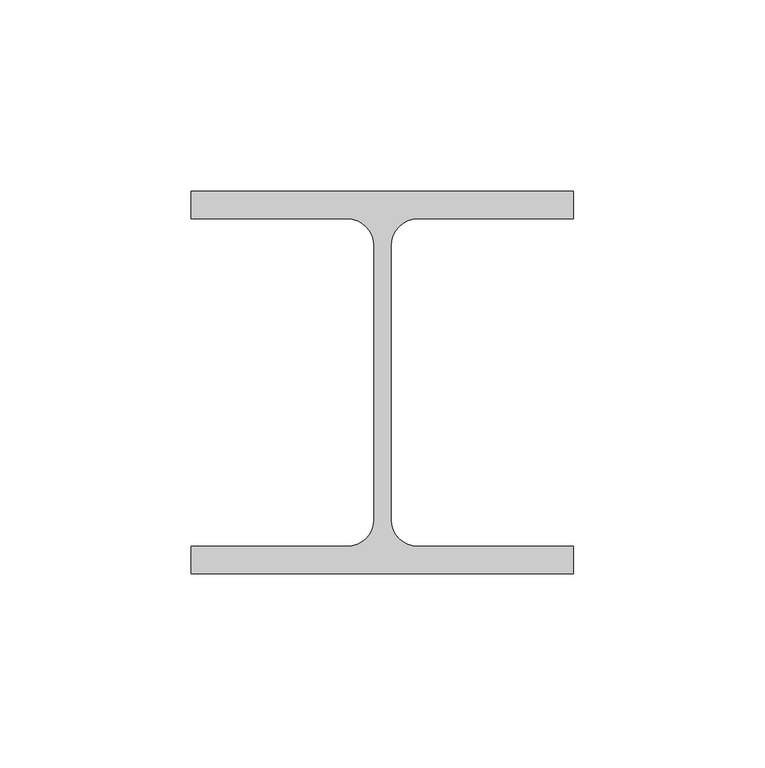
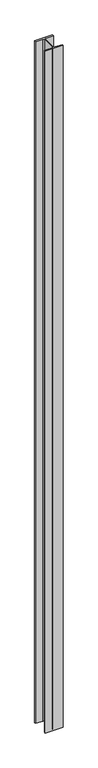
"""IFC4 building model written with IfcOpenShell, lengths in millimetres: column geometry, 08_Колонны_Высокая детализация КМ : 03_Колонны_Начало КМ."""

from ifc_helpers import new_model, si_unit, point, frame, frame_2d, origin, place, context, project, spatial, polyline, circle_curve, trimmed, segment, composite_curve, outline, extrude, source, transform, mapped, element, save


def column_a6e55074(model_context):
    return source(origin(), model_context, "Body", "SweptSolid", [
        extrude(outline(composite_curve([segment(polyline([(-50.0, 42.8), (-50.0, 50.0), (50.0, 50.0), (50.0, 42.8), (9.25, 42.8)]), True, "CONTINUOUS"), segment(trimmed(circle_curve(frame_2d((9.25, 35.8)), 7.0), [point((9.25, 42.8))], [point((2.25, 35.8))], True, "CARTESIAN"), True, "CONTINUOUS"), segment(polyline([(2.25, 35.8), (2.25, -35.8)]), True, "CONTINUOUS"), segment(trimmed(circle_curve(frame_2d((9.25, -35.8)), 7.0), [point((2.25, -35.8))], [point((9.25, -42.8))], True, "CARTESIAN"), True, "CONTINUOUS"), segment(polyline([(9.25, -42.8), (50.0, -42.8), (50.0, -50.0), (-50.0, -50.0), (-50.0, -42.8), (-9.25, -42.8)]), True, "CONTINUOUS"), segment(trimmed(circle_curve(frame_2d((-9.25, -35.8)), 7.0), [point((-9.25, -42.8))], [point((-2.25, -35.8))], True, "CARTESIAN"), True, "CONTINUOUS"), segment(polyline([(-2.25, -35.8), (-2.25, 35.8)]), True, "CONTINUOUS"), segment(trimmed(circle_curve(frame_2d((-9.25, 35.8)), 7.0), [point((-2.25, 35.8))], [point((-9.25, 42.8))], True, "CARTESIAN"), True, "CONTINUOUS"), segment(polyline([(-9.25, 42.8), (-50.0, 42.8)]), True, "CONTINUOUS")], self_intersect=False)), frame((0.0, 0.0, 8000.0), z_axis=(0.0, 0.0, 1.0), x_axis=(1.0, 0.0, 0.0)), (0.0, 0.0, 1.0), 4000.0),
    ])


if __name__ == "__main__":
    model = new_model("IFC4")
    model_context = context("Model", 3, world=origin())
    ifc_project = project(units=[si_unit("LENGTHUNIT", "METRE", prefix="MILLI")], contexts=[model_context])
    site = spatial("IfcSite", under=ifc_project)
    building = spatial("IfcBuilding", under=site)
    placement = place(None, origin())
    column_shape = column_a6e55074(model_context)
    element("IfcColumn", 1, ObjectType="08_Колонны_Высокая детализация КМ : 03_Колонны_Начало КМ", at=placement, inside=building, context=model_context, shape_type="MappedRepresentation", body=[
        mapped(column_shape, transform((0.0, 0.0, 0.0), x_axis=(1.0, 0.0, 0.0), y_axis=(0.0, 1.0, 0.0), z_axis=(0.0, 0.0, 1.0))),
    ])
    save(model, "model.ifc")
